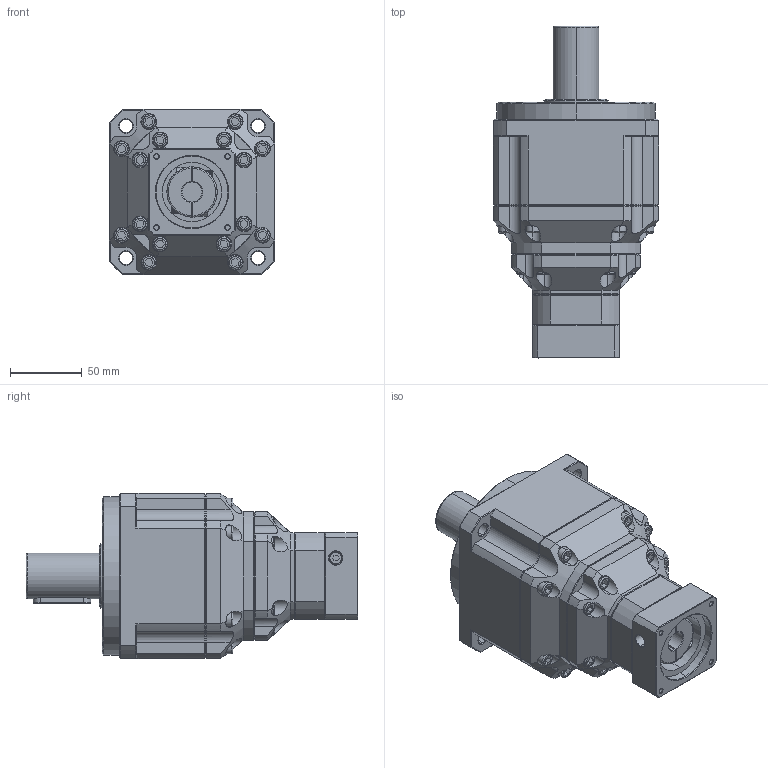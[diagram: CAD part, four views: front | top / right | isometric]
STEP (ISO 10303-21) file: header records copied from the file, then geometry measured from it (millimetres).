
FILE_DESCRIPTION (( 'STEP AP214' ), '1' );
FILE_NAME ('ZPB115-D32-L3-P1-14-50-70-M4.step', '2024-06-12T09:56:04', ( 'Windows 蚚誧' ), ( 'Organization' ), 'SwSTEP 2.0', 'SolidWorks 2016', '' );
FILE_SCHEMA (( 'AUTOMOTIVE_DESIGN' ));
Length unit declared in the file: millimetre
Products named in the file (1): ZPB115-D32-L3-P1-14-50-70-M4
Bounding box: 115 x 231 x 115 mm (x, y, z)
Surface area: 112123.2 mm2 (no closed solid volume)
Topology: 0 solids, 2 shells, 1971 faces, 5312 edges, 3453 vertices
Faces by surface type: plane 1125, bspline 414, cylinder 257, cone 175
Full cylindrical faces by diameter (mm): 10.2 x4
Entity records: 106083 total; most frequent: CARTESIAN_POINT 52084, ORIENTED_EDGE 10426, DIRECTION 7821, EDGE_CURVE 5222, LINE 3413, VECTOR 3413, VERTEX_POINT 3389, AXIS2_PLACEMENT_3D 2204
